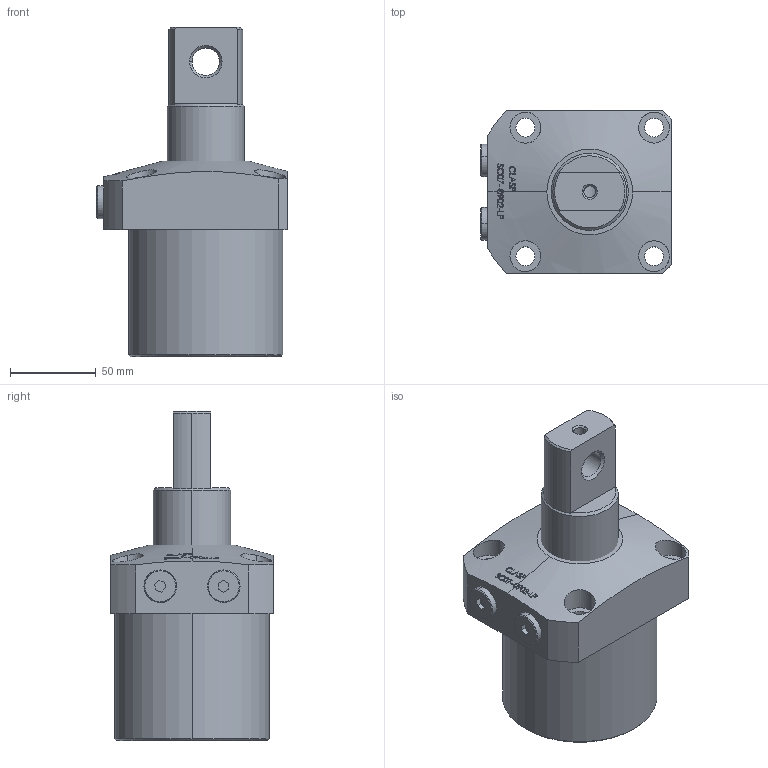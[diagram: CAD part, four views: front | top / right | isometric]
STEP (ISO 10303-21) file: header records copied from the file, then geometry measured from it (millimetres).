
FILE_DESCRIPTION (( 'STEP AP203' ), '1' );
FILE_NAME ('SC07-0902-LP.STEP', '2022-07-08T16:59:19', ( '' ), ( '' ), 'SwSTEP 2.0', 'SolidWorks 2017', '' );
FILE_SCHEMA (( 'CONFIG_CONTROL_DESIGN' ));
Length unit declared in the file: millimetre
Products named in the file (4): SC-07-0902-LP+Piston; SC07-0902-LP-05 plug; SC07-0902-LP; SC-07-0902-LP BODY
Assembly tree (4 placements, depth 2):
  SC07-0902-LP
    SC-07-0902-LP BODY
    SC-07-0902-LP+Piston
    SC07-0902-LP-05 plug  x2
Bounding box: 111 x 95 x 192 mm (x, y, z)
Volume: 917574 mm3; surface area: 78575.3 mm2
Topology: 4 solids, 4 shells, 322 faces, 803 edges, 529 vertices
Faces by surface type: plane 138, bspline 102, cylinder 51, cone 31
Entity records: 15671 total; most frequent: CARTESIAN_POINT 8643, ORIENTED_EDGE 1542, DIRECTION 996, EDGE_CURVE 771, VERTEX_POINT 509, EDGE_LOOP 358, LINE 354, VECTOR 354
